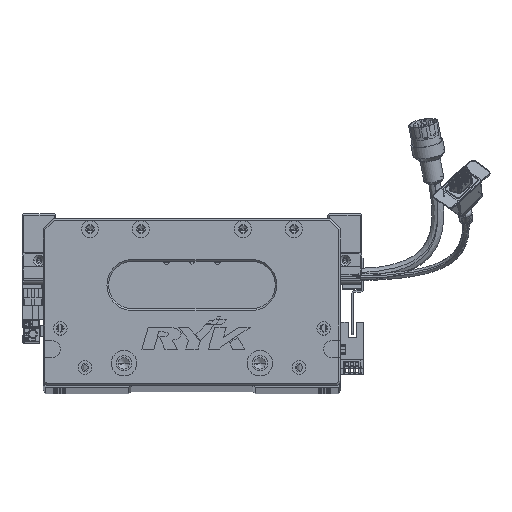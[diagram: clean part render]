
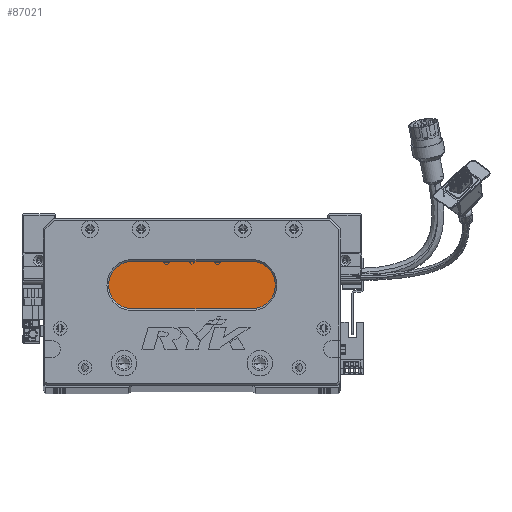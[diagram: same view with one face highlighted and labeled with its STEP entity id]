
A CAD part, top view. The second image highlights one B-rep face of the part: STEP entity #87021.
In plain terms, the highlighted planar face has unit normal (0, 0, 1) as drawn and (0, 0, -1) by its records, which use the part's own axes.
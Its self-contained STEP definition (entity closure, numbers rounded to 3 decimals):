
#2740 = ORIENTED_EDGE ( 'NONE', *, *, #56155, .T. ) ;
#5878 = CIRCLE ( 'NONE', #45054, 14. ) ;
#6779 = AXIS2_PLACEMENT_3D ( 'NONE', #43966, #107551, #107154 ) ;
#8942 = EDGE_CURVE ( 'NONE', #98234, #48752, #58368, .T. ) ;
#9563 = LINE ( 'NONE', #71092, #32069 ) ;
#14086 = CARTESIAN_POINT ( 'NONE',  ( 122.5, 45., 18. ) ) ;
#14822 = VERTEX_POINT ( 'NONE', #96273 ) ;
#15022 = DIRECTION ( 'NONE',  ( 0., 0., -1. ) ) ;
#21600 = VECTOR ( 'NONE', #77307, 1000. ) ;
#22051 = FACE_OUTER_BOUND ( 'NONE', #101037, .T. ) ;
#26464 = DIRECTION ( 'NONE',  ( 1., 0., 0. ) ) ;
#28301 = CIRCLE ( 'NONE', #56482, 14. ) ;
#30986 = CARTESIAN_POINT ( 'NONE',  ( 52.5, 59., 18. ) ) ;
#31361 = DIRECTION ( 'NONE',  ( -1., 0., 0. ) ) ;
#32069 = VECTOR ( 'NONE', #26464, 1000. ) ;
#33711 = CIRCLE ( 'NONE', #6779, 14. ) ;
#38410 = CARTESIAN_POINT ( 'NONE',  ( 52.5, 45., 18. ) ) ;
#40967 = ORIENTED_EDGE ( 'NONE', *, *, #52006, .T. ) ;
#41499 = EDGE_CURVE ( 'NONE', #55430, #115538, #33711, .T. ) ;
#43760 = PLANE ( 'NONE',  #58261 ) ;
#43966 = CARTESIAN_POINT ( 'NONE',  ( 52.5, 59., 18. ) ) ;
#45054 = AXIS2_PLACEMENT_3D ( 'NONE', #30986, #94162, #31361 ) ;
#48752 = VERTEX_POINT ( 'NONE', #38410 ) ;
#50222 = CARTESIAN_POINT ( 'NONE',  ( 52.5, 73., 18. ) ) ;
#52006 = EDGE_CURVE ( 'NONE', #115538, #14822, #9563, .T. ) ;
#55430 = VERTEX_POINT ( 'NONE', #91205 ) ;
#56155 = EDGE_CURVE ( 'NONE', #48752, #55430, #5878, .T. ) ;
#56482 = AXIS2_PLACEMENT_3D ( 'NONE', #79434, #15022, #78250 ) ;
#56728 = EDGE_CURVE ( 'NONE', #14822, #98234, #28301, .T. ) ;
#58261 = AXIS2_PLACEMENT_3D ( 'NONE', #97055, #106156, #70177 ) ;
#58368 = LINE ( 'NONE', #14086, #21600 ) ;
#70177 = DIRECTION ( 'NONE',  ( -1., 0., 0. ) ) ;
#71092 = CARTESIAN_POINT ( 'NONE',  ( 122.5, 73., 18. ) ) ;
#72046 = ORIENTED_EDGE ( 'NONE', *, *, #56728, .T. ) ;
#74851 = ORIENTED_EDGE ( 'NONE', *, *, #41499, .T. ) ;
#77307 = DIRECTION ( 'NONE',  ( -1., 0., 0. ) ) ;
#78250 = DIRECTION ( 'NONE',  ( -1., 0., 0. ) ) ;
#79434 = CARTESIAN_POINT ( 'NONE',  ( 122.5, 59., 18. ) ) ;
#87021 = ADVANCED_FACE ( 'NONE', ( #22051 ), #43760, .T. ) ;
#91205 = CARTESIAN_POINT ( 'NONE',  ( 38.5, 59., 18. ) ) ;
#94162 = DIRECTION ( 'NONE',  ( 0., 0., -1. ) ) ;
#96273 = CARTESIAN_POINT ( 'NONE',  ( 122.5, 73., 18. ) ) ;
#97055 = CARTESIAN_POINT ( 'NONE',  ( 122.5, 59., 18. ) ) ;
#98234 = VERTEX_POINT ( 'NONE', #100649 ) ;
#100649 = CARTESIAN_POINT ( 'NONE',  ( 122.5, 45., 18. ) ) ;
#101037 = EDGE_LOOP ( 'NONE', ( #72046, #107043, #2740, #74851, #40967 ) ) ;
#106156 = DIRECTION ( 'NONE',  ( 0., 0., -1. ) ) ;
#107043 = ORIENTED_EDGE ( 'NONE', *, *, #8942, .T. ) ;
#107154 = DIRECTION ( 'NONE',  ( -1., 0., 0. ) ) ;
#107551 = DIRECTION ( 'NONE',  ( 0., 0., -1. ) ) ;
#115538 = VERTEX_POINT ( 'NONE', #50222 ) ;
